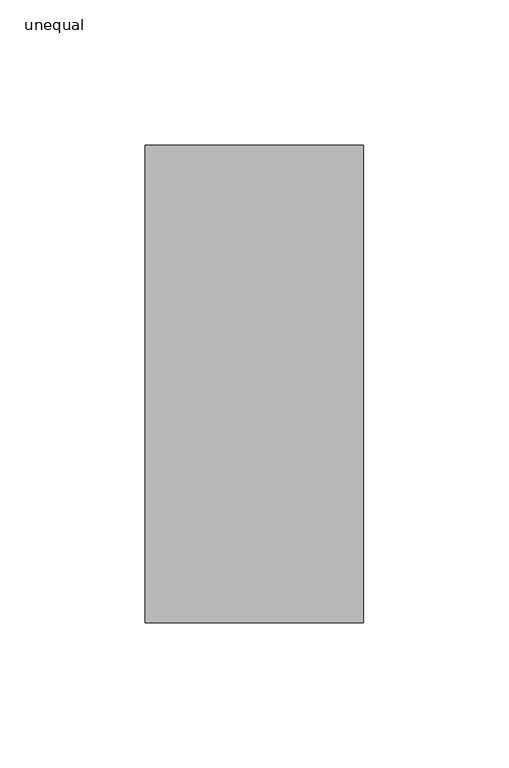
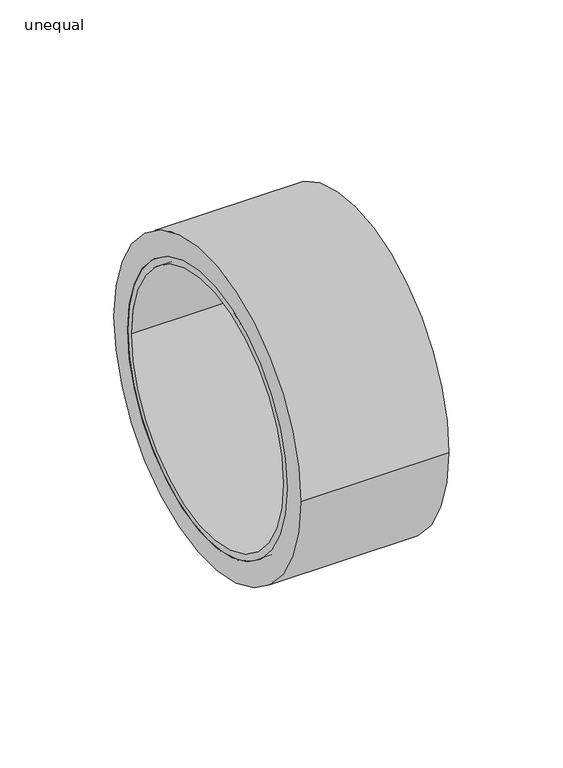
"""IFC4 building model written with IfcOpenShell, lengths in millimetres: pipe fitting geometry, PIF_ST_UN_GM-X compound pipe multi-tee_ACO : unequal."""

from ifc_helpers import new_model, si_unit, point, frame, origin, origin_2d, place, context, project, spatial, polyline, circle_curve, trimmed, segment, composite_curve, outline, extrude, source, transform, mapped, element, save
from ifc_brep_helpers import plane_surface, cylinder_surface, revolved_surface, advanced_brep


def unequal_3d65edd0(model_context):
    return source(origin(), model_context, "Body", "SolidModel", [
        extrude(outline(composite_curve([segment(trimmed(circle_curve(origin_2d(), 82.0), [point((82.0, 0.0))], [point((-82.0, 0.0))], False, "CARTESIAN"), True, "CONTINUOUS"), segment(trimmed(circle_curve(origin_2d(), 82.0), [point((-82.0, 0.0))], [point((82.0, 0.0))], False, "CARTESIAN"), True, "CONTINUOUS")], self_intersect=False), holes=[composite_curve([segment(trimmed(circle_curve(origin_2d(), 70.0), [point((-70.0, 0.0))], [point((70.0, 0.0))], True, "CARTESIAN"), True, "CONTINUOUS"), segment(trimmed(circle_curve(origin_2d(), 70.0), [point((70.0, 0.0))], [point((-70.0, 0.0))], True, "CARTESIAN"), True, "CONTINUOUS")], self_intersect=False)]), frame((-90.0, 0.0, 0.0), z_axis=(1.0, 0.0, 0.0), x_axis=(0.0, 1.0, 0.0)), (0.0, 0.0, 1.0), 75.0),
        advanced_brep(
        [(-90.0, 70.0, 0.0), (-90.0, -70.0, 0.0), (-90.0, -66.5, 0.0), (-90.0, 66.5, 0.0), (-15.0, 70.0, 0.0), (-15.0, -70.0, 0.0), (-15.0, 66.5, 0.0), (-15.0, -66.5, 0.0), (-55.0, 70.0, 0.0), (-55.0, -70.0, 0.0), (-23.4, -70.0, 0.0), (-23.4, 70.0, 0.0), (-55.0, 76.0, 0.0), (-55.0, -76.0, 0.0), (-23.4, 76.0, 0.0), (-23.4, -76.0, 0.0)],
        [
            (0, 1, circle_curve(frame((-90.0, 0.0, 0.0), z_axis=(-1.0, 0.0, 0.0), x_axis=(0.0, -1.0, 0.0)), 70.0)),
            (1, 0, circle_curve(frame((-90.0, 0.0, 0.0), z_axis=(-1.0, 0.0, 0.0), x_axis=(0.0, -1.0, 0.0)), 70.0)),
            (2, 3, circle_curve(frame((-90.0, 0.0, 0.0), z_axis=(1.0, 0.0, 0.0), x_axis=(0.0, -1.0, 0.0)), 66.5)),
            (3, 2, circle_curve(frame((-90.0, 0.0, 0.0), z_axis=(1.0, 0.0, 0.0), x_axis=(0.0, -1.0, 0.0)), 66.5)),
            (4, 5, circle_curve(frame((-15.0, 0.0, 0.0), z_axis=(1.0, 0.0, 0.0), x_axis=(0.0, -1.0, 0.0)), 70.0)),
            (5, 4, circle_curve(frame((-15.0, 0.0, 0.0), z_axis=(1.0, 0.0, 0.0), x_axis=(0.0, -1.0, 0.0)), 70.0)),
            (6, 7, circle_curve(frame((-15.0, 0.0, 0.0), z_axis=(-1.0, 0.0, 0.0), x_axis=(0.0, -1.0, 0.0)), 66.5)),
            (7, 6, circle_curve(frame((-15.0, 0.0, 0.0), z_axis=(-1.0, 0.0, 0.0), x_axis=(0.0, -1.0, 0.0)), 66.5)),
            (0, 8),
            (8, 9, circle_curve(frame((-55.0, 0.0, 0.0), z_axis=(-1.0, 0.0, 0.0), x_axis=(0.0, -1.0, 0.0)), 70.0)),
            (9, 1),
            (5, 10),
            (10, 11, circle_curve(frame((-23.4, 0.0, 0.0), z_axis=(1.0, 0.0, 0.0), x_axis=(0.0, -1.0, 0.0)), 70.0)),
            (11, 4),
            (9, 8, circle_curve(frame((-55.0, 0.0, 0.0), z_axis=(-1.0, 0.0, 0.0), x_axis=(0.0, -1.0, 0.0)), 70.0)),
            (11, 10, circle_curve(frame((-23.4, 0.0, 0.0), z_axis=(1.0, 0.0, 0.0), x_axis=(0.0, -1.0, 0.0)), 70.0)),
            (2, 7),
            (6, 3),
            (12, 13, circle_curve(frame((-55.0, 0.0, 0.0), z_axis=(-1.0, 0.0, 0.0), x_axis=(0.0, -1.0, 0.0)), 76.0)),
            (13, 12, circle_curve(frame((-55.0, 0.0, 0.0), z_axis=(-1.0, 0.0, 0.0), x_axis=(0.0, -1.0, 0.0)), 76.0)),
            (14, 15, circle_curve(frame((-23.4, 0.0, 0.0), z_axis=(1.0, 0.0, 0.0), x_axis=(0.0, -1.0, 0.0)), 76.0)),
            (15, 14, circle_curve(frame((-23.4, 0.0, 0.0), z_axis=(1.0, 0.0, 0.0), x_axis=(0.0, -1.0, 0.0)), 76.0)),
            (12, 14),
            (15, 13),
        ],
        [
            plane_surface(frame((-90.0, -70.0, 0.0), z_axis=(-1.0, 0.0, 0.0), x_axis=(0.0, 0.0, 1.0))),
            plane_surface(frame((-15.0, -70.0, 0.0), z_axis=(1.0, 0.0, 0.0), x_axis=(0.0, 0.0, -1.0))),
            cylinder_surface(frame((-15.0, 0.0, 0.0), z_axis=(-1.0, 0.0, 0.0), x_axis=(0.0, -1.0, 0.0)), 70.0),
            revolved_surface(polyline([(-90.0, -66.5, 0.0), (-15.0, -66.5, 0.0)]), (-15.0, 0.0, 0.0), (-1.0, 0.0, 0.0)),
            plane_surface(frame((-55.0, -76.0, 0.0), z_axis=(-1.0, 0.0, 0.0), x_axis=(0.0, 0.0, 1.0))),
            plane_surface(frame((-23.4, -76.0, 0.0), z_axis=(1.0, 0.0, 0.0), x_axis=(0.0, 0.0, -1.0))),
            cylinder_surface(frame((-23.4, 0.0, 0.0), z_axis=(-1.0, 0.0, 0.0), x_axis=(0.0, -1.0, 0.0)), 76.0),
        ],
        [
            (0, [[1, 2], [3, 4]]),
            (1, [[5, 6], [7, 8]]),
            (2, [[-1, 9, 10, 11]]),
            (2, [[-6, 12, 13, 14]]),
            (2, [[-2, -11, 15, -9]]),
            (2, [[-5, -14, 16, -12]]),
            (3, [[17, -7, 18, -3]]),
            (3, [[-17, -4, -18, -8]]),
            (4, [[19, 20], [-10, -15]]),
            (5, [[21, 22], [-13, -16]]),
            (6, [[-19, 23, -22, 24]]),
            (6, [[-20, -24, -21, -23]]),
        ],
    ),
    ])


if __name__ == "__main__":
    model = new_model("IFC4")
    model_context = context("Model", 3, world=origin())
    ifc_project = project(units=[si_unit("LENGTHUNIT", "METRE", prefix="MILLI")], contexts=[model_context])
    site = spatial("IfcSite", under=ifc_project)
    building = spatial("IfcBuilding", under=site)
    placement = place(None, origin())
    unequal_shape = unequal_3d65edd0(model_context)
    element("IfcPipeFitting", 1, ObjectType="PIF_ST_UN_GM-X compound pipe multi-tee_ACO : unequal", at=placement, inside=building, context=model_context, shape_type="MappedRepresentation", body=[
        mapped(unequal_shape, transform((0.0, 0.0, 0.0), x_axis=(1.0, 0.0, 0.0), y_axis=(0.0, 1.0, 0.0), z_axis=(0.0, 0.0, 1.0))),
    ])
    save(model, "model.ifc")
